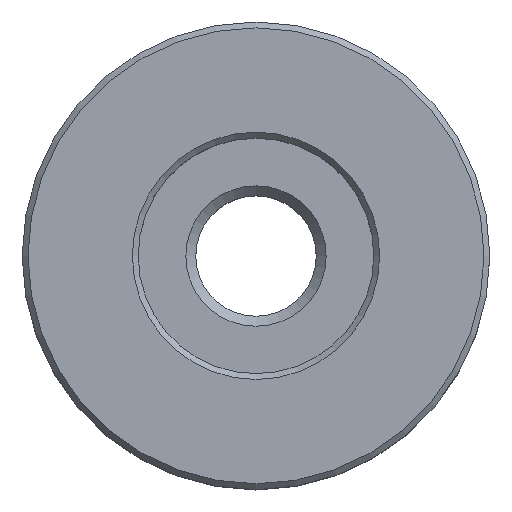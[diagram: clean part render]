
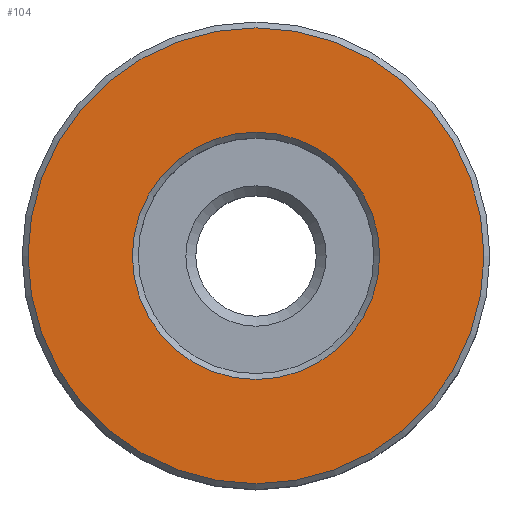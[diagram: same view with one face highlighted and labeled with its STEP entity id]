
A CAD part, top view. The second image highlights one B-rep face of the part: STEP entity #104.
In plain terms, the highlighted planar face has unit normal (0, 0, 1).
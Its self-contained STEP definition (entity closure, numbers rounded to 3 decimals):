
#104=ADVANCED_FACE('',(#118,#119),#115,.T.);
#115=PLANE('',#220);
#118=FACE_BOUND('',#140,.T.);
#119=FACE_BOUND('',#141,.T.);
#140=EDGE_LOOP('',(#162));
#141=EDGE_LOOP('',(#163));
#162=ORIENTED_EDGE('',*,*,#195,.T.);
#163=ORIENTED_EDGE('',*,*,#196,.T.);
#184=VERTEX_POINT('',#288);
#185=VERTEX_POINT('',#290);
#195=EDGE_CURVE('',#184,#184,#206,.T.);
#196=EDGE_CURVE('',#185,#185,#207,.T.);
#206=CIRCLE('',#218,10.575);
#207=CIRCLE('',#219,19.5);
#218=AXIS2_PLACEMENT_3D('',#287,#242,#243);
#219=AXIS2_PLACEMENT_3D('',#289,#244,#245);
#220=AXIS2_PLACEMENT_3D('',#291,#246,#247);
#242=DIRECTION('',(0.,0.,-1.));
#243=DIRECTION('',(1.,0.,0.));
#244=DIRECTION('',(0.,0.,1.));
#245=DIRECTION('',(1.,0.,0.));
#246=DIRECTION('',(0.,0.,1.));
#247=DIRECTION('',(1.,0.,0.));
#287=CARTESIAN_POINT('',(0.,0.,18.));
#288=CARTESIAN_POINT('',(10.575,0.,18.));
#289=CARTESIAN_POINT('',(0.,0.,18.));
#290=CARTESIAN_POINT('',(19.5,0.,18.));
#291=CARTESIAN_POINT('',(0.,0.,18.));
